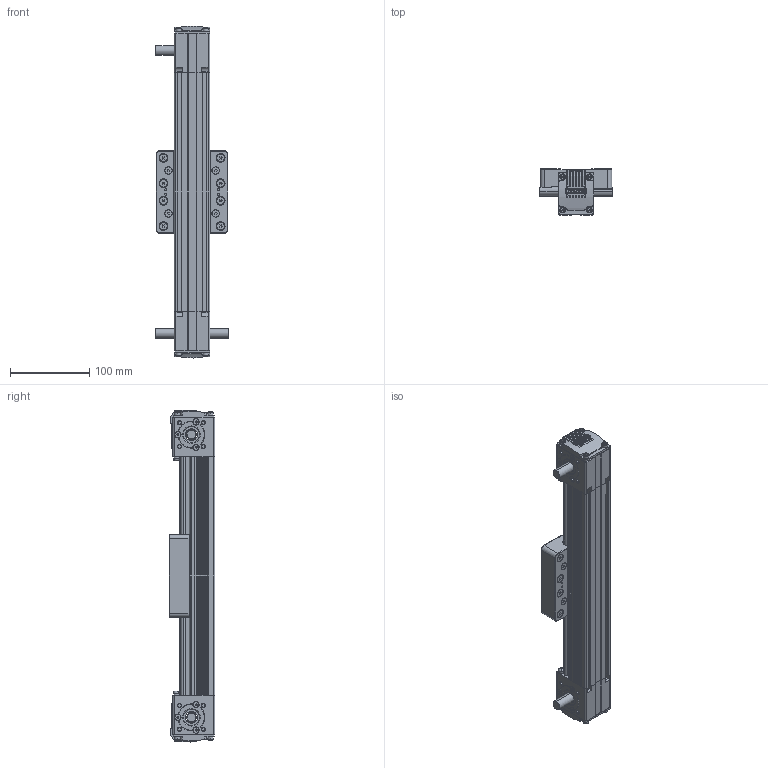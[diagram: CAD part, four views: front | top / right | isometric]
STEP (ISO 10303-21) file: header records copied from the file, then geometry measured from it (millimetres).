
FILE_DESCRIPTION (( 'STEP AP203' ), '1' );
FILE_NAME ('MJ45轨道(双出轴+左出轴)A.STEP', '2017-06-26T03:53:30', ( '' ), ( '' ), 'SwSTEP 2.0', 'SolidWorks 2017', '' );
FILE_SCHEMA (( 'CONFIG_CONTROL_DESIGN' ));
Length unit declared in the file: millimetre
Products named in the file (1): MJ45轨道(双出轴+左出轴)A
Bounding box: 92.13 x 57.5 x 418 mm (x, y, z)
Volume: 942156.9 mm3; surface area: 206958.1 mm2
Topology: 12 solids, 68 shells, 2931 faces, 7573 edges, 4827 vertices
Faces by surface type: plane 1513, cylinder 851, cone 344, bspline 175, torus 48
Entity records: 97815 total; most frequent: CARTESIAN_POINT 27162, ORIENTED_EDGE 14962, DIRECTION 14287, EDGE_CURVE 7481, AXIS2_PLACEMENT_3D 4893, VERTEX_POINT 4827, VECTOR 4501, LINE 4501
